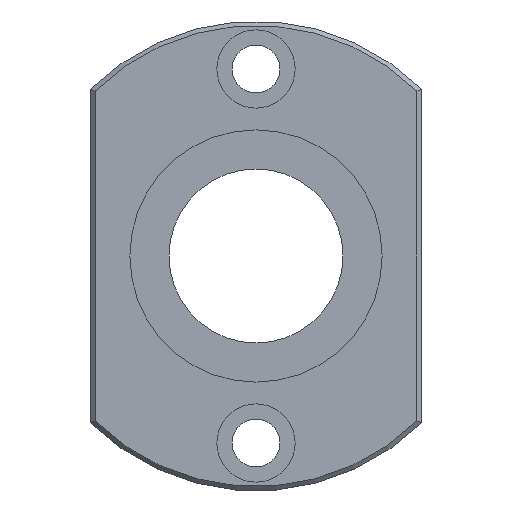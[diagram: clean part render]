
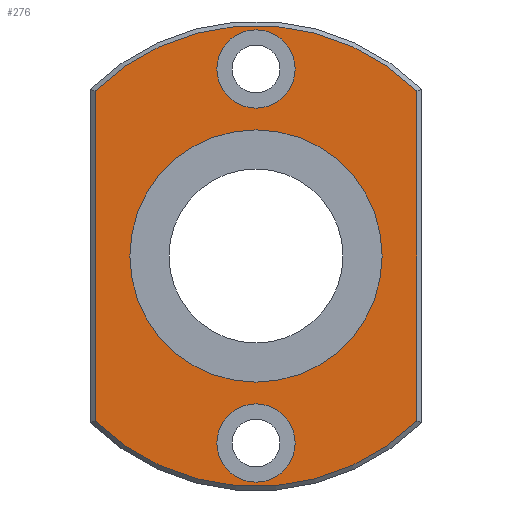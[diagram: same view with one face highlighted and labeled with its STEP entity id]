
A CAD part, left-side view. The second image highlights one B-rep face of the part: STEP entity #276.
In plain terms, the highlighted planar face has unit normal (-1, 0, 0).
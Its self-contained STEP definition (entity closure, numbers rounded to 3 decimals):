
#59=CARTESIAN_POINT('',(0.0,18.5,-18.974));
#60=VERTEX_POINT('',#59);
#68=CARTESIAN_POINT('',(0.0,18.5,18.974));
#69=VERTEX_POINT('',#68);
#70=CARTESIAN_POINT('',(0.0,18.5,-18.974));
#71=DIRECTION('',(0.0,0.0,1.0));
#72=VECTOR('',#71,37.947);
#73=LINE('',#70,#72);
#74=EDGE_CURVE('',#60,#69,#73,.T.);
#101=CARTESIAN_POINT('',(0.0,-18.5,18.974));
#102=VERTEX_POINT('',#101);
#103=CARTESIAN_POINT('',(0.0,0.0,0.0));
#104=DIRECTION('',(1.0,0.0,0.0));
#105=DIRECTION('',(0.0,0.0,1.0));
#106=AXIS2_PLACEMENT_3D('',#103,#104,#105);
#107=CIRCLE('',#106,26.5);
#108=EDGE_CURVE('',#69,#102,#107,.T.);
#134=CARTESIAN_POINT('',(0.0,-18.5,-18.974));
#135=VERTEX_POINT('',#134);
#136=CARTESIAN_POINT('',(0.0,-18.5,18.974));
#137=DIRECTION('',(0.0,0.0,-1.0));
#138=VECTOR('',#137,37.947);
#139=LINE('',#136,#138);
#140=EDGE_CURVE('',#102,#135,#139,.T.);
#165=CARTESIAN_POINT('',(0.0,0.0,0.0));
#166=DIRECTION('',(1.0,0.0,0.0));
#167=DIRECTION('',(0.0,0.0,-1.0));
#168=AXIS2_PLACEMENT_3D('',#165,#166,#167);
#169=CIRCLE('',#168,26.5);
#170=EDGE_CURVE('',#135,#60,#169,.T.);
#232=CARTESIAN_POINT('',(0.0,0.0,15.25));
#233=DIRECTION('',(-1.0,0.0,0.0));
#234=DIRECTION('',(0.0,0.0,1.0));
#235=AXIS2_PLACEMENT_3D('',#232,#233,#234);
#236=PLANE('',#235);
#237=ORIENTED_EDGE('',*,*,#74,.F.);
#238=ORIENTED_EDGE('',*,*,#170,.F.);
#239=ORIENTED_EDGE('',*,*,#140,.F.);
#240=ORIENTED_EDGE('',*,*,#108,.F.);
#241=EDGE_LOOP('',(#237,#238,#239,#240));
#242=FACE_OUTER_BOUND('',#241,.T.);
#243=CARTESIAN_POINT('',(0.0,0.0,14.5));
#244=VERTEX_POINT('',#243);
#245=CARTESIAN_POINT('',(0.0,0.0,0.0));
#246=DIRECTION('',(-1.0,0.0,0.0));
#247=DIRECTION('',(0.0,0.0,1.0));
#248=AXIS2_PLACEMENT_3D('',#245,#246,#247);
#249=CIRCLE('',#248,14.5);
#250=EDGE_CURVE('',#244,#244,#249,.T.);
#251=ORIENTED_EDGE('',*,*,#250,.F.);
#252=EDGE_LOOP('',(#251));
#253=FACE_BOUND('',#252,.T.);
#254=CARTESIAN_POINT('',(0.0,4.5,-21.5));
#255=VERTEX_POINT('',#254);
#256=CARTESIAN_POINT('',(0.0,0.,-21.5));
#257=DIRECTION('',(1.0,0.0,0.0));
#258=DIRECTION('',(0.0,1.0,0.0));
#259=AXIS2_PLACEMENT_3D('',#256,#257,#258);
#260=CIRCLE('',#259,4.5);
#261=EDGE_CURVE('',#255,#255,#260,.T.);
#262=ORIENTED_EDGE('',*,*,#261,.T.);
#263=EDGE_LOOP('',(#262));
#264=FACE_BOUND('',#263,.T.);
#265=CARTESIAN_POINT('',(0.0,4.5,21.5));
#266=VERTEX_POINT('',#265);
#267=CARTESIAN_POINT('',(0.0,0.,21.5));
#268=DIRECTION('',(1.0,0.0,0.0));
#269=DIRECTION('',(0.0,1.0,0.0));
#270=AXIS2_PLACEMENT_3D('',#267,#268,#269);
#271=CIRCLE('',#270,4.5);
#272=EDGE_CURVE('',#266,#266,#271,.T.);
#273=ORIENTED_EDGE('',*,*,#272,.T.);
#274=EDGE_LOOP('',(#273));
#275=FACE_BOUND('',#274,.T.);
#276=ADVANCED_FACE('',(#242,#253,#264,#275),#236,.T.);
